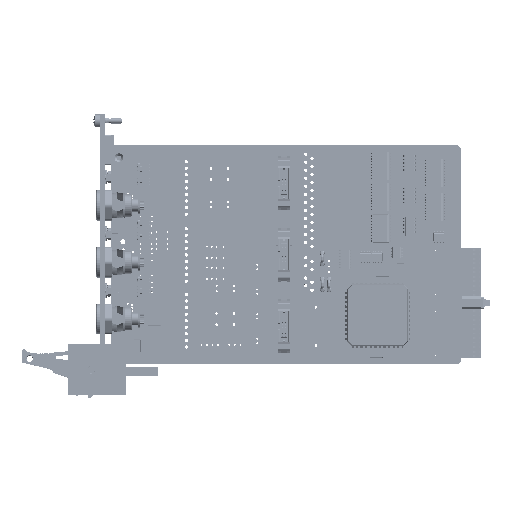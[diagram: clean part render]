
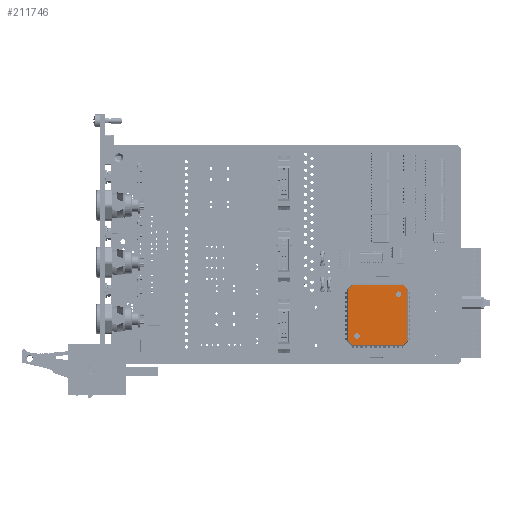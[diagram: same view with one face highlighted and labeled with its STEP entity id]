
A CAD part, top view. The second image highlights one B-rep face of the part: STEP entity #211746.
In plain terms, the highlighted planar face has unit normal (0, 0, 1) as drawn and (0, 1, 0) by its records, which use the part's own axes.
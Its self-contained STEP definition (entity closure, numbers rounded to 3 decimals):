
#728 = VECTOR ( 'NONE', #197041, 1000. ) ;
#3228 = EDGE_CURVE ( 'NONE', #11000, #153335, #306543, .T. ) ;
#11000 = VERTEX_POINT ( 'NONE', #177091 ) ;
#13240 = VECTOR ( 'NONE', #245055, 1000. ) ;
#14163 = VERTEX_POINT ( 'NONE', #359863 ) ;
#15391 = CARTESIAN_POINT ( 'NONE',  ( 13.544, 1.7, -11.811 ) ) ;
#20137 = VECTOR ( 'NONE', #307896, 1000. ) ;
#24962 = ORIENTED_EDGE ( 'NONE', *, *, #278821, .T. ) ;
#27503 = CARTESIAN_POINT ( 'NONE',  ( -12., 1.7, -13.544 ) ) ;
#30056 = DIRECTION ( 'NONE',  ( 0., 0., -1. ) ) ;
#32511 = LINE ( 'NONE', #27503, #257452 ) ;
#38031 = VERTEX_POINT ( 'NONE', #133962 ) ;
#42638 = CIRCLE ( 'NONE', #134949, 1.249 ) ;
#44967 = CARTESIAN_POINT ( 'NONE',  ( -11.811, 1.7, -13.544 ) ) ;
#45434 = CARTESIAN_POINT ( 'NONE',  ( 9.544, 1.7, -9.544 ) ) ;
#48457 = FACE_OUTER_BOUND ( 'NONE', #56393, .T. ) ;
#48739 = CARTESIAN_POINT ( 'NONE',  ( 26., 1.7, 0. ) ) ;
#56393 = EDGE_LOOP ( 'NONE', ( #91014, #24962, #159840, #301890, #291614, #62639, #89675, #301954 ) ) ;
#56515 = CARTESIAN_POINT ( 'NONE',  ( -13.544, 1.7, 12. ) ) ;
#62417 = VERTEX_POINT ( 'NONE', #350985 ) ;
#62639 = ORIENTED_EDGE ( 'NONE', *, *, #361890, .T. ) ;
#63225 = DIRECTION ( 'NONE',  ( 0., -1., 0. ) ) ;
#70576 = CIRCLE ( 'NONE', #221191, 1.25 ) ;
#74030 = DIRECTION ( 'NONE',  ( 0., 0., -1. ) ) ;
#77316 = DIRECTION ( 'NONE',  ( 0., 0., 1. ) ) ;
#81418 = ORIENTED_EDGE ( 'NONE', *, *, #3228, .T. ) ;
#82607 = LINE ( 'NONE', #146440, #232614 ) ;
#84820 = EDGE_CURVE ( 'NONE', #92410, #365109, #70576, .T. ) ;
#85405 = CARTESIAN_POINT ( 'NONE',  ( 13.544, 1.7, 12. ) ) ;
#89675 = ORIENTED_EDGE ( 'NONE', *, *, #328451, .T. ) ;
#90603 = EDGE_CURVE ( 'NONE', #352947, #38031, #82607, .T. ) ;
#91014 = ORIENTED_EDGE ( 'NONE', *, *, #158637, .T. ) ;
#92410 = VERTEX_POINT ( 'NONE', #243087 ) ;
#97431 = VECTOR ( 'NONE', #268825, 1000. ) ;
#102268 = CARTESIAN_POINT ( 'NONE',  ( -13.544, 1.7, 11.811 ) ) ;
#105719 = CARTESIAN_POINT ( 'NONE',  ( -9.544, 1.7, 8.296 ) ) ;
#106283 = LINE ( 'NONE', #128326, #97431 ) ;
#110596 = CARTESIAN_POINT ( 'NONE',  ( 11.678, 1.7, -13.678 ) ) ;
#114461 = CARTESIAN_POINT ( 'NONE',  ( 9.544, 1.7, -9.544 ) ) ;
#118315 = VERTEX_POINT ( 'NONE', #44967 ) ;
#122644 = CARTESIAN_POINT ( 'NONE',  ( 9.544, 1.7, -10.794 ) ) ;
#124456 = ORIENTED_EDGE ( 'NONE', *, *, #84820, .T. ) ;
#128326 = CARTESIAN_POINT ( 'NONE',  ( 11.678, 1.7, 13.678 ) ) ;
#129085 = AXIS2_PLACEMENT_3D ( 'NONE', #45434, #242763, #74030 ) ;
#131299 = LINE ( 'NONE', #259370, #272460 ) ;
#133962 = CARTESIAN_POINT ( 'NONE',  ( -11.811, 1.7, 13.544 ) ) ;
#134949 = AXIS2_PLACEMENT_3D ( 'NONE', #232115, #63225, #260410 ) ;
#142851 = DIRECTION ( 'NONE',  ( 0., 0., -1. ) ) ;
#143581 = VERTEX_POINT ( 'NONE', #145163 ) ;
#145163 = CARTESIAN_POINT ( 'NONE',  ( 11.811, 1.7, 13.544 ) ) ;
#145666 = EDGE_LOOP ( 'NONE', ( #124456, #356639 ) ) ;
#146440 = CARTESIAN_POINT ( 'NONE',  ( -11.678, 1.7, 13.678 ) ) ;
#153335 = VERTEX_POINT ( 'NONE', #105719 ) ;
#158637 = EDGE_CURVE ( 'NONE', #167966, #62417, #236318, .T. ) ;
#159840 = ORIENTED_EDGE ( 'NONE', *, *, #226728, .T. ) ;
#162629 = AXIS2_PLACEMENT_3D ( 'NONE', #48739, #246115, #77316 ) ;
#167966 = VERTEX_POINT ( 'NONE', #15391 ) ;
#167993 = AXIS2_PLACEMENT_3D ( 'NONE', #190894, #190600, #190497 ) ;
#172476 = VECTOR ( 'NONE', #30056, 1000. ) ;
#174742 = DIRECTION ( 'NONE',  ( 0.707, 0., 0.707 ) ) ;
#177091 = CARTESIAN_POINT ( 'NONE',  ( -9.544, 1.7, 10.793 ) ) ;
#190177 = LINE ( 'NONE', #85405, #172476 ) ;
#190202 = EDGE_CURVE ( 'NONE', #153335, #11000, #42638, .T. ) ;
#190497 = DIRECTION ( 'NONE',  ( 0., 0., -1. ) ) ;
#190600 = DIRECTION ( 'NONE',  ( 0., -1., 0. ) ) ;
#190894 = CARTESIAN_POINT ( 'NONE',  ( -9.544, 1.7, 9.544 ) ) ;
#197041 = DIRECTION ( 'NONE',  ( 0., 0., 1. ) ) ;
#211746 = ADVANCED_FACE ( 'NONE', ( #348527, #48457, #339731 ), #244896, .T. ) ;
#215534 = CARTESIAN_POINT ( 'NONE',  ( -11.678, 1.7, -13.678 ) ) ;
#215868 = ORIENTED_EDGE ( 'NONE', *, *, #190202, .T. ) ;
#221191 = AXIS2_PLACEMENT_3D ( 'NONE', #114461, #311747, #142851 ) ;
#226728 = EDGE_CURVE ( 'NONE', #118315, #273519, #322137, .T. ) ;
#232115 = CARTESIAN_POINT ( 'NONE',  ( -9.544, 1.7, 9.544 ) ) ;
#232614 = VECTOR ( 'NONE', #174742, 1000. ) ;
#235658 = EDGE_LOOP ( 'NONE', ( #81418, #215868 ) ) ;
#236318 = LINE ( 'NONE', #110596, #20137 ) ;
#242763 = DIRECTION ( 'NONE',  ( 0., -1., 0. ) ) ;
#243087 = CARTESIAN_POINT ( 'NONE',  ( 9.544, 1.7, -8.294 ) ) ;
#244896 = PLANE ( 'NONE',  #162629 ) ;
#245055 = DIRECTION ( 'NONE',  ( -0.707, 0., 0.707 ) ) ;
#246115 = DIRECTION ( 'NONE',  ( 0., 1., 0. ) ) ;
#253098 = DIRECTION ( 'NONE',  ( -1., 0., 0. ) ) ;
#257452 = VECTOR ( 'NONE', #253098, 1000. ) ;
#258622 = EDGE_CURVE ( 'NONE', #14163, #167966, #190177, .T. ) ;
#259370 = CARTESIAN_POINT ( 'NONE',  ( -12., 1.7, 13.544 ) ) ;
#260410 = DIRECTION ( 'NONE',  ( 0., 0., -1. ) ) ;
#268825 = DIRECTION ( 'NONE',  ( 0.707, 0., -0.707 ) ) ;
#272460 = VECTOR ( 'NONE', #287826, 1000. ) ;
#273519 = VERTEX_POINT ( 'NONE', #356345 ) ;
#278821 = EDGE_CURVE ( 'NONE', #62417, #118315, #32511, .T. ) ;
#287826 = DIRECTION ( 'NONE',  ( 1., 0., 0. ) ) ;
#291614 = ORIENTED_EDGE ( 'NONE', *, *, #90603, .T. ) ;
#300636 = LINE ( 'NONE', #56515, #728 ) ;
#301890 = ORIENTED_EDGE ( 'NONE', *, *, #341708, .T. ) ;
#301954 = ORIENTED_EDGE ( 'NONE', *, *, #258622, .T. ) ;
#306543 = CIRCLE ( 'NONE', #167993, 1.249 ) ;
#307896 = DIRECTION ( 'NONE',  ( -0.707, 0., -0.707 ) ) ;
#311747 = DIRECTION ( 'NONE',  ( 0., -1., 0. ) ) ;
#321999 = EDGE_CURVE ( 'NONE', #365109, #92410, #358283, .T. ) ;
#322137 = LINE ( 'NONE', #215534, #13240 ) ;
#328451 = EDGE_CURVE ( 'NONE', #143581, #14163, #106283, .T. ) ;
#339731 = FACE_BOUND ( 'NONE', #145666, .T. ) ;
#341708 = EDGE_CURVE ( 'NONE', #273519, #352947, #300636, .T. ) ;
#348527 = FACE_BOUND ( 'NONE', #235658, .T. ) ;
#350985 = CARTESIAN_POINT ( 'NONE',  ( 11.811, 1.7, -13.544 ) ) ;
#352947 = VERTEX_POINT ( 'NONE', #102268 ) ;
#356345 = CARTESIAN_POINT ( 'NONE',  ( -13.544, 1.7, -11.811 ) ) ;
#356639 = ORIENTED_EDGE ( 'NONE', *, *, #321999, .T. ) ;
#358283 = CIRCLE ( 'NONE', #129085, 1.25 ) ;
#359863 = CARTESIAN_POINT ( 'NONE',  ( 13.544, 1.7, 11.811 ) ) ;
#361890 = EDGE_CURVE ( 'NONE', #38031, #143581, #131299, .T. ) ;
#365109 = VERTEX_POINT ( 'NONE', #122644 ) ;
